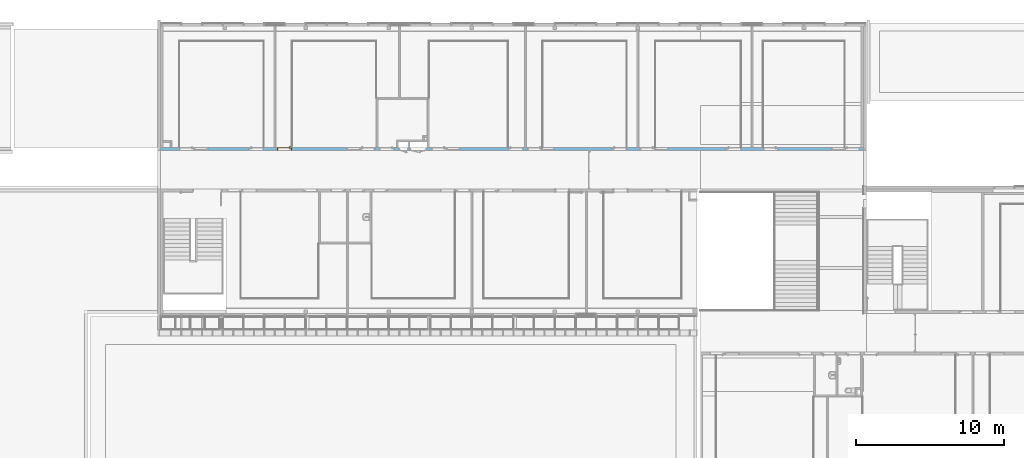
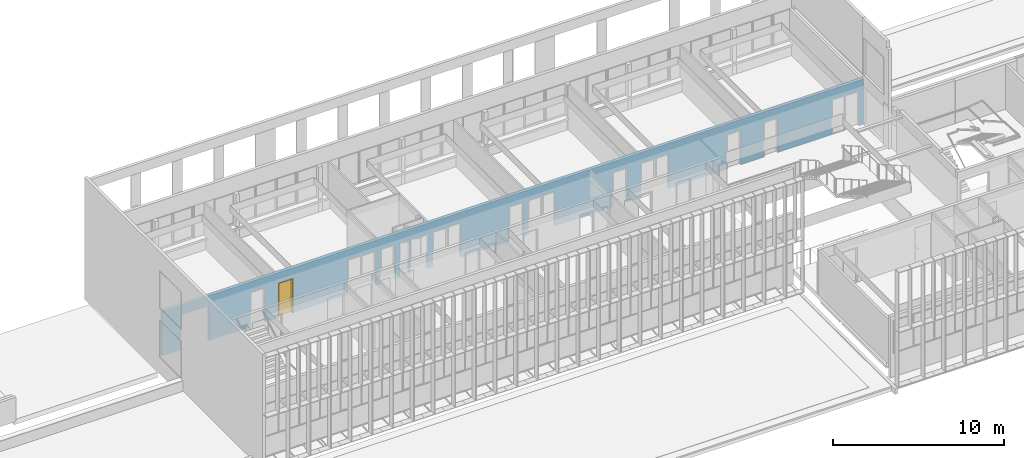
# One storey, part 50 of 106: 1 door, 21 openings, plus 1 element that does not belong to this part.
"""IFC2X3 building model written with IfcOpenShell, lengths in centimetres."""

from ifc_helpers import new_model, entity, si_unit, converted_unit, derived_unit, direction, frame, frame_2d, origin, place, context, subcontext, project, spatial, polyline, rectangle, extrude, clip, bounded_halfspace, faceted_brep, source, transform, mapped, material, material_list, layer, layer_set, layer_usage, type_object, type_shapes, element, fill, save


model = new_model("IFC2X3")

# Units and contexts
model_context = context("Model", 3, precision=0.001, world=origin(), true_north=direction((6.12303176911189e-17, 1.0)))
body_context = subcontext(model_context, "Body", "Model", "MODEL_VIEW")
ifc_project = project(units=[si_unit("LENGTHUNIT", "METRE", prefix="CENTI"), si_unit("AREAUNIT", "SQUARE_METRE"), si_unit("VOLUMEUNIT", "CUBIC_METRE"), converted_unit("PLANEANGLEUNIT", "DEGREE", entity("IfcRatioMeasure", 0.0174532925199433), si_unit("PLANEANGLEUNIT", "RADIAN"), dimensions=[0, 0, 0, 0, 0, 0, 0]), si_unit("MASSUNIT", "GRAM", prefix="KILO"), derived_unit("MASSDENSITYUNIT", [(si_unit("MASSUNIT", "GRAM", prefix="KILO"), 1), (si_unit("LENGTHUNIT", "METRE"), -3)]), si_unit("TIMEUNIT", "SECOND"), si_unit("FREQUENCYUNIT", "HERTZ"), si_unit("THERMODYNAMICTEMPERATUREUNIT", "DEGREE_CELSIUS"), derived_unit("THERMALTRANSMITTANCEUNIT", [(si_unit("MASSUNIT", "GRAM", prefix="KILO"), 1), (si_unit("THERMODYNAMICTEMPERATUREUNIT", "KELVIN"), -1), (si_unit("TIMEUNIT", "SECOND"), -3)]), derived_unit("VOLUMETRICFLOWRATEUNIT", [(si_unit("LENGTHUNIT", "METRE"), 3), (si_unit("TIMEUNIT", "SECOND"), -1)]), si_unit("ELECTRICCURRENTUNIT", "AMPERE"), si_unit("ELECTRICVOLTAGEUNIT", "VOLT"), si_unit("POWERUNIT", "WATT"), si_unit("FORCEUNIT", "NEWTON", prefix="KILO"), si_unit("ILLUMINANCEUNIT", "LUX"), si_unit("LUMINOUSFLUXUNIT", "LUMEN"), si_unit("LUMINOUSINTENSITYUNIT", "CANDELA"), derived_unit("USERDEFINED", [(si_unit("MASSUNIT", "GRAM", prefix="KILO"), -1), (si_unit("LENGTHUNIT", "METRE"), -2), (si_unit("TIMEUNIT", "SECOND"), 3), (si_unit("LUMINOUSFLUXUNIT", "LUMEN"), 1)]), derived_unit("LINEARVELOCITYUNIT", [(si_unit("LENGTHUNIT", "METRE"), 1), (si_unit("TIMEUNIT", "SECOND"), -1)]), si_unit("PRESSUREUNIT", "PASCAL"), derived_unit("USERDEFINED", [(si_unit("LENGTHUNIT", "METRE"), -2), (si_unit("MASSUNIT", "GRAM", prefix="KILO"), 1), (si_unit("TIMEUNIT", "SECOND"), -2)])], contexts=[model_context])

# Site, building, storey
site_placement = place(None, frame((-2781.94577612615, 7442.24238424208, 0.0)))
site = spatial("IfcSite", under=ifc_project, at=site_placement, Name="Default", CompositionType="ELEMENT")
building_placement = place(site_placement, origin())
building = spatial("IfcBuilding", under=site, at=building_placement, CompositionType="ELEMENT")
storey_placement = place(building_placement, frame((0.0, 0.0, 422.0)))
storey = spatial("IfcBuildingStorey", under=building, at=storey_placement, Name="Toiture - Cuisine", CompositionType="ELEMENT", Elevation=421.999999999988)

# Wall, openings, door
ifc_material_1 = material(Name="01 - Maçonnerie")
ifc_layer = layer(ifc_material_1, 20.0)
ifc_layer_set = layer_set([ifc_layer], Name="Mur de base:04 - Structure - béton - 20cm")
ifc_layer_usage = layer_usage(ifc_layer_set, "AXIS2", "NEGATIVE", 10.0)
wall_type = type_object("IfcWallType", Name="Mur de base:04 - Structure - béton - 20cm", PredefinedType="STANDARD", material=ifc_layer_set)
wall_placement = place(building_placement, frame((-8409.49987766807, -820.048500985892, 422.0)))
wall = element("IfcWallStandardCase", 1, at=wall_placement, inside=storey, type_object=wall_type, material=ifc_layer_usage, Name="Mur de base:04 - Structure - béton - 20cm", ObjectType="Mur de base:04 - Structure - béton - 20cm", context=body_context, shape_type="Clipping", body=[
    clip(extrude(rectangle(XDim=4741.49999798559, YDim=20.0, at=frame_2d((2370.74999899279, 2.04281036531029e-14), x_axis=(-1.0, 0.0))), origin(), (0.0, 0.0, 1.0), 321.0), bounded_halfspace(frame((4741.49999798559, -10.0, 321.0), z_axis=(0.0, 0.0, -1.0), x_axis=(0.0, 1.0, 0.0)), True, frame((4741.49999798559, -10.0, 321.0)), polyline([(0.0, 0.0), (0.0, 20.0), (-15.3000000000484, 20.0), (-125.300000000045, 20.0), (-127.300000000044, 20.0), (-675.800000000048, 20.0), (-677.800000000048, 20.0), (-745.800000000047, 20.0), (-755.800000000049, 20.0), (-825.800000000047, 20.0), (-827.800000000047, 20.0), (-1403.80000000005, 20.0), (-1405.80000000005, 20.0), (-1516.49999791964, 20.0), (-1526.49999791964, 20.0), (-1595.78709704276, 20.0), (-1597.78709704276, 20.0), (-2163.80000000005, 20.0), (-2165.80000000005, 20.0), (-2275.80000000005, 20.0), (-2285.80000000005, 20.0), (-2395.80000000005, 20.0), (-2397.80000000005, 20.0), (-2931.80000000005, 20.0), (-2941.80000000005, 20.0), (-3060.80000000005, 20.0), (-3070.80000000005, 20.0), (-3137.80000000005, 20.0), (-3147.80000000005, 20.0), (-3275.80000000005, 20.0), (-3285.80000000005, 20.0), (-3416.49999791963, 20.0), (-3535.80000000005, 20.0), (-3545.80000000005, 20.0), (-3611.80000000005, 20.0), (-3853.80000000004, 20.0), (-3855.80000000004, 20.0), (-3965.80000000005, 20.0), (-3975.80000000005, 20.0), (-4044.30000000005, 20.0), (-4046.30000000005, 20.0), (-4614.19999798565, 20.0), (-4616.19999798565, 20.0), (-4666.19999798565, 20.0), (-4676.19999798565, 20.0), (-4726.19999798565, 20.0), (-4741.49999798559, 20.0), (-4741.49999798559, 0.0), (-1854.0, 0.0), (-1844.0, 0.0), (-1840.0, 0.0), (0.0, 0.0)]))),
])
opening_1_placement = place(wall_placement, frame((1669.50000006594, 10.0, 0.0)))
element("IfcOpeningElement", 2, at=opening_1_placement, cuts=wall, Name="Int. Simple:PP Placard (0.55m x 2.50m):1", ObjectType="Opening", context=body_context, shape_type="SweptSolid", body=[
    extrude(rectangle(XDim=248.500000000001, YDim=61.9999999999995, at=frame_2d((124.250000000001, 30.9999999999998), x_axis=(1.0, 0.0))), frame((0.0, 0.0, 0.0), z_axis=(0.0, -1.0, 0.0), x_axis=(0.0, 0.0, 1.0)), (0.0, 0.0, 1.0), 20.0),
])
opening_2_placement = place(wall_placement, frame((1794.50000006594, 10.0, 0.0)))
element("IfcOpeningElement", 3, at=opening_2_placement, cuts=wall, Name="Int. Double:PP Placard (1.05m x 2.50m):1", ObjectType="Opening", context=body_context, shape_type="SweptSolid", body=[
    extrude(rectangle(XDim=248.500000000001, YDim=112.0, at=frame_2d((124.250000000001, 56.0000000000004), x_axis=(1.0, 0.0))), frame((0.0, 0.0, 0.0), z_axis=(0.0, -1.0, 0.0), x_axis=(0.0, 0.0, 1.0)), (0.0, 0.0, 1.0), 20.0),
])
opening_3_placement = place(wall_placement, frame((126.799999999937, -10.0, 0.0)))
element("IfcOpeningElement", 4, at=opening_3_placement, cuts=wall, Name="Int. Simple:PV (0.93m x 2.50m):1", ObjectType="Opening", context=body_context, shape_type="SweptSolid", body=[
    extrude(rectangle(XDim=248.500000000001, YDim=99.9999999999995, at=frame_2d((124.250000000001, 50.0), x_axis=(1.0, 0.0))), frame((0.0, 0.0, 0.0), z_axis=(0.0, 1.0, 0.0), x_axis=(0.0, 0.0, 1.0)), (0.0, 0.0, 1.0), 20.0),
])
opening_4_placement = place(wall_placement, frame((595.699997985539, -10.0, 0.0)))
element("IfcOpeningElement", 5, at=opening_4_placement, cuts=wall, Name="Int. Simple:PV (0.93m x 2.50m):1", ObjectType="Opening", context=body_context, shape_type="SweptSolid", body=[
    extrude(rectangle(XDim=248.500000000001, YDim=99.9999999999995, at=frame_2d((124.250000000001, 49.9999999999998), x_axis=(1.0, 0.0))), frame((0.0, 0.0, 0.0), z_axis=(0.0, 1.0, 0.0), x_axis=(0.0, 0.0, 1.0)), (0.0, 0.0, 1.0), 20.0),
])
opening_5_placement = place(wall_placement, frame((785.699997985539, -10.0, 0.0)))
opening_5 = element("IfcOpeningElement", 6, at=opening_5_placement, cuts=wall, Name="Int. Simple:PV (0.93m x 2.50m):1", ObjectType="Opening", context=body_context, shape_type="SweptSolid", body=[
    extrude(rectangle(XDim=248.500000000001, YDim=99.9999999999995, at=frame_2d((124.250000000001, 50.0), x_axis=(1.0, 0.0))), frame((0.0, 0.0, 0.0), z_axis=(0.0, 1.0, 0.0), x_axis=(0.0, 0.0, 1.0)), (0.0, 0.0, 1.0), 20.0),
])
opening_6_placement = place(wall_placement, frame((1345.69999798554, -10.0, 0.0)))
element("IfcOpeningElement", 7, at=opening_6_placement, cuts=wall, Name="Int. Simple:PV (0.93m x 2.50m):1", ObjectType="Opening", context=body_context, shape_type="SweptSolid", body=[
    extrude(rectangle(XDim=248.500000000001, YDim=99.9999999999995, at=frame_2d((124.250000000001, 49.9999999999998), x_axis=(1.0, 0.0))), frame((0.0, 0.0, 0.0), z_axis=(0.0, 1.0, 0.0), x_axis=(0.0, 0.0, 1.0)), (0.0, 0.0, 1.0), 20.0),
])
opening_7_placement = place(wall_placement, frame((1475.69999798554, -10.0, 0.0)))
element("IfcOpeningElement", 8, at=opening_7_placement, cuts=wall, Name="Int. Simple:PP simple (0.93m x 2.50m):1", ObjectType="Opening", context=body_context, shape_type="SweptSolid", body=[
    extrude(rectangle(XDim=248.500000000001, YDim=99.9999999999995, at=frame_2d((124.250000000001, 50.0), x_axis=(1.0, 0.0))), frame((0.0, 0.0, 0.0), z_axis=(0.0, 1.0, 0.0), x_axis=(0.0, 0.0, 1.0)), (0.0, 0.0, 1.0), 20.0),
])
opening_8_placement = place(wall_placement, frame((1829.69999798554, -10.0, 0.0)))
element("IfcOpeningElement", 9, at=opening_8_placement, cuts=wall, Name="Int. Simple:PV (0.93m x 2.50m):1", ObjectType="Opening", context=body_context, shape_type="SweptSolid", body=[
    extrude(rectangle(XDim=248.500000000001, YDim=99.9999999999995, at=frame_2d((124.250000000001, 50.0), x_axis=(1.0, 0.0))), frame((0.0, 0.0, 0.0), z_axis=(0.0, 1.0, 0.0), x_axis=(0.0, 0.0, 1.0)), (0.0, 0.0, 1.0), 20.0),
])
opening_9_placement = place(wall_placement, frame((2345.69999798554, -10.0, 0.0)))
element("IfcOpeningElement", 10, at=opening_9_placement, cuts=wall, Name="Int. Simple:PV (0.93m x 2.50m):1", ObjectType="Opening", context=body_context, shape_type="SweptSolid", body=[
    extrude(rectangle(XDim=248.500000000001, YDim=99.9999999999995, at=frame_2d((124.250000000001, 49.9999999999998), x_axis=(1.0, 0.0))), frame((0.0, 0.0, 0.0), z_axis=(0.0, 1.0, 0.0), x_axis=(0.0, 0.0, 1.0)), (0.0, 0.0, 1.0), 20.0),
])
opening_10_placement = place(wall_placement, frame((2475.69999798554, -10.0, 0.0)))
element("IfcOpeningElement", 11, at=opening_10_placement, cuts=wall, Name="Int. Simple:PV (0.93m x 2.50m):1", ObjectType="Opening", context=body_context, shape_type="SweptSolid", body=[
    extrude(rectangle(XDim=248.500000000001, YDim=99.9999999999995, at=frame_2d((124.250000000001, 50.0), x_axis=(1.0, 0.0))), frame((0.0, 0.0, 0.0), z_axis=(0.0, 1.0, 0.0), x_axis=(0.0, 0.0, 1.0)), (0.0, 0.0, 1.0), 20.0),
])
opening_11_placement = place(wall_placement, frame((3045.69999798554, -10.0, 0.0)))
element("IfcOpeningElement", 12, at=opening_11_placement, cuts=wall, Name="Int. Simple:PV (0.93m x 2.50m):1", ObjectType="Opening", context=body_context, shape_type="SweptSolid", body=[
    extrude(rectangle(XDim=248.500000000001, YDim=99.9999999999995, at=frame_2d((124.250000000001, 49.9999999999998), x_axis=(1.0, 0.0))), frame((0.0, 0.0, 0.0), z_axis=(0.0, 1.0, 0.0), x_axis=(0.0, 0.0, 1.0)), (0.0, 0.0, 1.0), 20.0),
])
opening_12_placement = place(wall_placement, frame((3235.69999798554, -10.0, 0.0)))
element("IfcOpeningElement", 13, at=opening_12_placement, cuts=wall, Name="Int. Simple:PV (0.93m x 2.50m):1", ObjectType="Opening", context=body_context, shape_type="SweptSolid", body=[
    extrude(rectangle(XDim=248.500000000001, YDim=99.9999999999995, at=frame_2d((124.250000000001, 50.0), x_axis=(1.0, 0.0))), frame((0.0, 0.0, 0.0), z_axis=(0.0, 1.0, 0.0), x_axis=(0.0, 0.0, 1.0)), (0.0, 0.0, 1.0), 20.0),
])
opening_13_placement = place(wall_placement, frame((3815.69999798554, -10.0, 0.0)))
element("IfcOpeningElement", 14, at=opening_13_placement, cuts=wall, Name="Int. Simple:PV (0.93m x 2.50m):1", ObjectType="Opening", context=body_context, shape_type="SweptSolid", body=[
    extrude(rectangle(XDim=248.500000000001, YDim=99.9999999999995, at=frame_2d((124.250000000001, 49.9999999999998), x_axis=(1.0, 0.0))), frame((0.0, 0.0, 0.0), z_axis=(0.0, 1.0, 0.0), x_axis=(0.0, 0.0, 1.0)), (0.0, 0.0, 1.0), 20.0),
])
opening_14_placement = place(wall_placement, frame((4065.69999798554, -10.0, 0.0)))
element("IfcOpeningElement", 15, at=opening_14_placement, cuts=wall, Name="Int. Simple:PV (0.93m x 2.50m):1", ObjectType="Opening", context=body_context, shape_type="SweptSolid", body=[
    extrude(rectangle(XDim=248.500000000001, YDim=99.9999999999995, at=frame_2d((124.250000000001, 50.0), x_axis=(1.0, 0.0))), frame((0.0, 0.0, 0.0), z_axis=(0.0, 1.0, 0.0), x_axis=(0.0, 0.0, 1.0)), (0.0, 0.0, 1.0), 20.0),
])
opening_15_placement = place(wall_placement, frame((4616.19999798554, -10.0, 0.0)))
element("IfcOpeningElement", 16, at=opening_15_placement, cuts=wall, Name="Int. Simple:PV (0.93m x 2.50m):1", ObjectType="Opening", context=body_context, shape_type="SweptSolid", body=[
    extrude(rectangle(XDim=248.500000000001, YDim=99.9999999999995, at=frame_2d((124.250000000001, 49.9999999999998), x_axis=(1.0, 0.0))), frame((0.0, 0.0, 0.0), z_axis=(0.0, 1.0, 0.0), x_axis=(0.0, 0.0, 1.0)), (0.0, 0.0, 1.0), 20.0),
])
opening_16_placement = place(wall_placement, frame((1255.69999798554, -10.0, 0.0)))
element("IfcOpeningElement", 17, at=opening_16_placement, cuts=wall, Name="châssis intérieur vitré:châssis intérieur vitré (h=270) R+1:1", ObjectType="Opening", context=body_context, shape_type="SweptSolid", body=[
    extrude(rectangle(XDim=250.0, YDim=89.9999999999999, at=frame_2d((125.0, 45.0), x_axis=(1.0, 0.0))), frame((0.0, 0.0, 0.0), z_axis=(0.0, 1.0, 0.0), x_axis=(0.0, 0.0, 1.0)), (0.0, 0.0, 1.0), 20.0),
])
opening_17_placement = place(wall_placement, frame((1929.69999798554, -10.0, 0.0)))
element("IfcOpeningElement", 18, at=opening_17_placement, cuts=wall, Name="châssis intérieur vitré:châssis intérieur vitré (h=270) R+1:1", ObjectType="Opening", context=body_context, shape_type="SweptSolid", body=[
    extrude(rectangle(XDim=250.0, YDim=89.9999999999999, at=frame_2d((125.0, 45.0), x_axis=(1.0, 0.0))), frame((0.0, 0.0, 0.0), z_axis=(0.0, 1.0, 0.0), x_axis=(0.0, 0.0, 1.0)), (0.0, 0.0, 1.0), 20.0),
])
opening_18_placement = place(wall_placement, frame((4526.19999798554, -10.0, 0.0)))
element("IfcOpeningElement", 19, at=opening_18_placement, cuts=wall, Name="châssis intérieur vitré:châssis intérieur vitré (h=270) R+1:1", ObjectType="Opening", context=body_context, shape_type="SweptSolid", body=[
    extrude(rectangle(XDim=250.0, YDim=89.9999999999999, at=frame_2d((125.0, 45.0000000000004), x_axis=(1.0, 0.0))), frame((0.0, 0.0, 0.0), z_axis=(0.0, 1.0, 0.0), x_axis=(0.0, 0.0, 1.0)), (0.0, 0.0, 1.0), 20.0),
])
opening_19_placement = place(wall_placement, frame((3335.69999798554, -10.0, 0.0)))
element("IfcOpeningElement", 20, at=opening_19_placement, cuts=wall, Name="châssis intérieur vitré:châssis intérieur vitré (h=270) R+1:1", ObjectType="Opening", context=body_context, shape_type="SweptSolid", body=[
    extrude(rectangle(XDim=250.0, YDim=89.9999999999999, at=frame_2d((125.0, 45.0000000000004), x_axis=(1.0, 0.0))), frame((0.0, 0.0, 0.0), z_axis=(0.0, 1.0, 0.0), x_axis=(0.0, 0.0, 1.0)), (0.0, 0.0, 1.0), 20.0),
])
opening_20_placement = place(wall_placement, frame((2565.69999798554, -10.0, 0.0)))
element("IfcOpeningElement", 21, at=opening_20_placement, cuts=wall, Name="châssis intérieur vitré:châssis intérieur vitré (h=270) R+1:1", ObjectType="Opening", context=body_context, shape_type="SweptSolid", body=[
    extrude(rectangle(XDim=250.0, YDim=89.9999999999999, at=frame_2d((125.0, 45.0000000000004), x_axis=(1.0, 0.0))), frame((0.0, 0.0, 0.0), z_axis=(0.0, 1.0, 0.0), x_axis=(0.0, 0.0, 1.0)), (0.0, 0.0, 1.0), 20.0),
])
opening_21_placement = place(wall_placement, frame((226.799999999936, -10.0, 0.0)))
element("IfcOpeningElement", 22, at=opening_21_placement, cuts=wall, Name="châssis intérieur vitré:châssis intérieur vitré (h=270) R+1:1", ObjectType="Opening", context=body_context, shape_type="SweptSolid", body=[
    extrude(rectangle(XDim=250.0, YDim=91.4999999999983, at=frame_2d((125.0, 45.7499999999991), x_axis=(1.0, 0.0))), frame((0.0, 0.0, 0.0), z_axis=(0.0, 1.0, 0.0), x_axis=(0.0, 0.0, 1.0)), (0.0, 0.0, 1.0), 20.0),
])
ifc_material_2 = material(Name="Finition Peinture - Blanc satiné")
ifc_material_3 = material(Name="Bois - Panneau de porte")
ifc_material_4 = material(Name="Bois - Cadre de porte")
ifc_material_list_1 = material_list([ifc_material_2, ifc_material_3, ifc_material_4])
ifc_material_list_2 = material_list([ifc_material_2, ifc_material_3, ifc_material_4])
door_style = type_object("IfcDoorStyle", Name="PV (0.93m x 2.50m)", ConstructionType="NOTDEFINED", OperationType="SINGLE_SWING_LEFT", ParameterTakesPrecedence=False, Sizeable=False, material=ifc_material_list_2)
shared_shape = source(origin(), body_context, "Body", "Brep", [
    faceted_brep([(10.5352761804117, -0.500000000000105, 86.6003983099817), (11.5000000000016, -0.500000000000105, 87.0), (11.5000000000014, -0.500000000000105, 108.0), (10.5352761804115, -0.500000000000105, 108.399601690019), (9.50000000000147, -0.500000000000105, 108.535898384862), (8.46472381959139, -0.500000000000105, 108.399601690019), (7.50000000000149, -0.500000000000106, 108.0), (7.50000000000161, -0.500000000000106, 87.0), (8.46472381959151, -0.500000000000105, 86.6003983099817), (9.50000000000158, -0.500000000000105, 86.464101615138), (10.5352761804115, 0.0, 108.399601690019), (11.5000000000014, 0.0, 108.0), (11.5000000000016, 0.0, 87.0), (10.5352761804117, 0.0, 86.6003983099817), (9.50000000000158, 0.0, 86.464101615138), (8.46472381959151, 0.0, 86.6003983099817), (7.50000000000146, 0.0, 87.0), (7.50000000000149, 0.0, 108.0), (8.46472381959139, 0.0, 108.399601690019), (9.50000000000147, 0.0, 108.535898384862)], [[[0, 1, 2, 3, 4, 5, 6, 7, 8, 9]], [[10, 11, 12, 13, 14, 15, 16, 17, 18, 19]], [[16, 15, 8, 7]], [[8, 15, 14, 9]], [[14, 13, 0, 9]], [[13, 12, 1, 0]], [[2, 1, 12, 11]], [[11, 10, 3, 2]], [[3, 10, 19, 4]], [[19, 18, 5, 4]], [[18, 17, 6, 5]], [[7, 6, 17, 16]]]),
    faceted_brep([(10.5352761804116, 4.0, 86.6003983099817), (11.5000000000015, 4.0, 87.0), (11.5000000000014, 4.0, 108.0), (10.5352761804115, 4.0, 108.399601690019), (9.50000000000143, 4.0, 108.535898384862), (8.46472381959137, 4.0, 108.399601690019), (7.50000000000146, 4.0, 108.0), (7.50000000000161, 4.0, 87.0), (8.46472381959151, 4.0, 86.6003983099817), (9.50000000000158, 4.0, 86.464101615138), (10.5352761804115, 4.49999999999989, 108.399601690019), (11.5000000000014, 4.49999999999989, 108.0), (11.5000000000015, 4.49999999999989, 87.0), (10.5352761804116, 4.49999999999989, 86.6003983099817), (9.50000000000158, 4.49999999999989, 86.464101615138), (8.46472381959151, 4.49999999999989, 86.6003983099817), (7.50000000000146, 4.49999999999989, 87.0), (7.50000000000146, 4.49999999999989, 108.0), (8.46472381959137, 4.49999999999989, 108.399601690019), (9.50000000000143, 4.49999999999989, 108.535898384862)], [[[0, 1, 2, 3, 4, 5, 6, 7, 8, 9]], [[10, 11, 12, 13, 14, 15, 16, 17, 18, 19]], [[11, 10, 3, 2]], [[3, 10, 19, 4]], [[19, 18, 5, 4]], [[18, 17, 6, 5]], [[7, 6, 17, 16]], [[16, 15, 8, 7]], [[8, 15, 14, 9]], [[14, 13, 0, 9]], [[13, 12, 1, 0]], [[2, 1, 12, 11]]]),
    faceted_brep([(9.29747013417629, -0.500000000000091, 100.778044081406), (9.70252986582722, -0.500000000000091, 100.778044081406), (10.1000000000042, -0.500000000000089, 100.699999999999), (10.1000000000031, -0.500000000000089, 99.3000000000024), (9.7025298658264, -0.500000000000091, 99.2219559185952), (9.29747013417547, -0.500000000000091, 99.221955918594), (8.8999999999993, -0.500000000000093, 99.2999999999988), (8.89999999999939, -0.500000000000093, 100.7), (8.89999999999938, -3.26509507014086, 100.7), (9.29747013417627, -3.10045754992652, 100.778044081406), (10.9023585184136, -4.70534593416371, 100.778044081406), (11.0701397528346, -4.30028620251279, 100.778044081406), (9.7025298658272, -2.93267631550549, 100.778044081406), (10.1000000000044, -2.76803879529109, 100.7), (10.1000000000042, -2.76803879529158, 99.3000000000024), (9.7025298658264, -2.93267631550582, 99.2219559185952), (11.0701397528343, -4.30028620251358, 99.2219559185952), (10.9023585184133, -4.70534593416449, 99.221955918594), (9.29747013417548, -3.10045754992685, 99.221955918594), (8.89999999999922, -3.26509507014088, 99.2999999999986), (10.7377209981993, -5.10281606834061, 100.7), (11.2347772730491, -3.90281606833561, 100.7), (11.2347772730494, -3.90281606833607, 99.3000000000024), (10.7377209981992, -5.10281606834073, 99.2999999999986), (19.5018640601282, -5.1028160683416, 99.2999999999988), (19.5018640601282, -4.70534593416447, 99.221955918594), (19.5018640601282, -4.30028620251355, 99.2219559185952), (19.5018640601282, -3.90281606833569, 99.3000000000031), (19.5018640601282, -3.90281606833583, 100.7), (19.5018640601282, -4.30028620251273, 100.778044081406), (19.5018640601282, -4.70534593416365, 100.778044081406), (19.5018640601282, -5.10281606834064, 100.699999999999), (14.7307697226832, -5.10281606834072, 100.7), (15.2860019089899, -4.5028160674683, 100.78786867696), (15.3683206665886, -3.9028160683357, 100.7), (15.3683206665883, -3.90281606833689, 99.3000000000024), (15.2860018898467, -4.50281607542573, 99.2121313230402), (14.7307700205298, -5.10281606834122, 99.2999999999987)], [[[0, 1, 2, 3, 4, 5, 6, 7]], [[8, 9, 0, 7]], [[9, 10, 11, 12, 1, 0]], [[12, 13, 2, 1]], [[3, 2, 13, 14]], [[14, 15, 4, 3]], [[15, 16, 17, 18, 5, 4]], [[18, 19, 6, 5]], [[7, 6, 19, 8]], [[20, 10, 9, 8]], [[11, 21, 13, 12]], [[14, 13, 21, 22]], [[22, 16, 15, 14]], [[17, 23, 19, 18]], [[8, 19, 23, 20]], [[24, 25, 26, 27, 28, 29, 30, 31]], [[32, 30, 33]], [[31, 30, 32]], [[10, 20, 32]], [[33, 34, 11]], [[21, 11, 34]], [[34, 29, 28]], [[30, 29, 33]], [[29, 34, 33]], [[10, 32, 33]], [[10, 33, 11]], [[22, 21, 34, 28, 27, 35]], [[35, 26, 36]], [[37, 36, 25]], [[22, 35, 16]], [[35, 27, 26]], [[24, 37, 25]], [[23, 17, 37]], [[37, 17, 36]], [[17, 16, 36]], [[16, 35, 36]], [[25, 36, 26]], [[20, 23, 37, 24, 31, 32]]]),
    faceted_brep([(9.29747013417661, 4.49999999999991, 100.778044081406), (8.89999999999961, 4.4999999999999, 100.7), (8.89999999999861, 4.4999999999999, 99.2999999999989), (9.29747013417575, 4.49999999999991, 99.221955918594), (9.70252986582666, 4.49999999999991, 99.2219559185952), (10.1000000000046, 4.49999999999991, 99.3000000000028), (10.1000000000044, 4.49999999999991, 100.7), (9.70252986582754, 4.49999999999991, 100.778044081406), (10.1000000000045, 6.7485204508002, 99.3000000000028), (10.1000000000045, 6.74852045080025, 100.7), (9.70252986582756, 6.91315797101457, 100.778044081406), (11.083890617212, 8.29451872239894, 100.778044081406), (10.916109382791, 8.69957845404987, 100.778044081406), (9.29747013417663, 7.0809392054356, 100.778044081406), (8.89999999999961, 7.24557672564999, 100.7), (8.89999999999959, 7.2455767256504, 99.2999999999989), (9.29747013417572, 7.08093920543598, 99.221955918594), (10.9161093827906, 8.69957845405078, 99.221955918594), (11.0838906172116, 8.29451872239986, 99.2219559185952), (9.70252986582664, 6.91315797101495, 99.2219559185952), (11.2485281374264, 7.89704858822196, 99.3000000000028), (11.2485281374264, 7.89704858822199, 100.7), (10.7514718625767, 9.09704858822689, 100.7), (10.7514718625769, 9.0970485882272, 99.2999999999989), (19.5045783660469, 7.89704858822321, 99.3000000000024), (19.5045783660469, 8.29451872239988, 99.2219559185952), (19.5045783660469, 8.6995784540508, 99.221955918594), (19.5045783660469, 9.09704858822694, 99.2999999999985), (19.5045783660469, 9.09704858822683, 100.7), (19.5045783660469, 8.69957845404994, 100.778044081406), (19.5045783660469, 8.29451872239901, 100.778044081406), (19.5045783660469, 7.89704858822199, 100.7), (15.3765520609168, 7.89704858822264, 99.3000000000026), (15.3765532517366, 7.89704858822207, 100.7), (15.294234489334, 8.49704858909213, 100.78786867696), (14.7445205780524, 9.09704858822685, 100.7), (14.7445204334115, 9.09704858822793, 99.2999999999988), (15.2942345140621, 8.49704858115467, 99.2121313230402)], [[[0, 1, 2, 3, 4, 5, 6, 7]], [[6, 5, 8, 9]], [[9, 10, 7, 6]], [[10, 11, 12, 13, 0, 7]], [[13, 14, 1, 0]], [[2, 1, 14, 15]], [[15, 16, 3, 2]], [[16, 17, 18, 19, 4, 3]], [[19, 8, 5, 4]], [[9, 8, 20, 21]], [[21, 11, 10, 9]], [[12, 22, 14, 13]], [[15, 14, 22, 23]], [[23, 17, 16, 15]], [[18, 20, 8, 19]], [[24, 25, 26, 27, 28, 29, 30, 31]], [[21, 20, 32, 24, 31, 33]], [[33, 30, 34]], [[35, 34, 29]], [[21, 33, 11]], [[33, 31, 30]], [[28, 35, 29]], [[22, 12, 35]], [[35, 12, 34]], [[12, 11, 34]], [[11, 33, 34]], [[29, 34, 30]], [[22, 35, 28, 27, 36, 23]], [[36, 26, 37]], [[27, 26, 36]], [[17, 23, 36]], [[37, 32, 18]], [[20, 18, 32]], [[32, 25, 24]], [[26, 25, 37]], [[25, 32, 37]], [[17, 36, 37]], [[17, 37, 18]]]),
    faceted_brep([(3.50000000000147, 4.0, 245.0), (96.5000000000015, 4.0, 245.0), (96.5000000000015, 4.0, 0.0), (3.50000000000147, 4.0, 0.0), (3.50000000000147, 0.0, 245.0), (3.50000000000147, 0.0, 0.0), (96.5000000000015, 0.0, 0.0), (96.5000000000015, 0.0, 245.0)], [[[0, 1, 2, 3]], [[4, 5, 6, 7]], [[1, 0, 4, 7]], [[2, 1, 7, 6]], [[3, 2, 6, 5]], [[0, 3, 5, 4]]]),
    faceted_brep([(0.0, 20.0, 0.0), (-1.50000000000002, 20.0, 0.0), (-1.50000000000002, 20.5000000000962, 0.0), (5.0, 20.5000000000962, 0.0), (5.0, 4.0, 0.0), (3.50000000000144, 4.0, 0.0), (3.50000000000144, -0.500000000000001, 0.0), (-1.50000000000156, -0.500000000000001, 0.0), (-1.50000000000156, 0.0, 0.0), (0.0, 0.0, 0.0), (0.0, 20.0, 248.500000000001), (100.0, 20.0, 248.500000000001), (100.0, 20.0, 0.0), (101.5, 20.0, 0.0), (101.5, 20.0, 250.0), (-1.50000000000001, 20.0, 250.0), (-1.50000000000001, 20.5000000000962, 250.0), (101.5, 20.5000000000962, 250.0), (101.5, 20.5000000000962, 0.0), (95.0, 20.5000000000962, 0.0), (95.0, 20.5000000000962, 243.5), (5.0, 20.5000000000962, 243.5), (5.0, 4.0, 243.5), (95.0, 4.0, 243.5), (95.0, 4.0, 0.0), (96.499999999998, 4.0, 0.0), (96.499999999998, 4.0, 245.0), (3.50000000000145, 4.0, 245.0), (3.50000000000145, -0.500000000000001, 245.0), (96.499999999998, -0.500000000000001, 245.0), (96.499999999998, -0.500000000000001, 0.0), (101.500000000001, -0.500000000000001, 0.0), (101.500000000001, -0.500000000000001, 250.0), (-1.50000000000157, -0.500000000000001, 250.0), (-1.50000000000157, 0.0, 250.0), (101.500000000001, 0.0, 250.0), (101.500000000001, 0.0, 0.0), (100.0, 0.0, 0.0), (100.0, 0.0, 248.500000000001), (0.0, 0.0, 248.500000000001)], [[[0, 1, 2, 3, 4, 5, 6, 7, 8, 9]], [[1, 0, 10, 11, 12, 13, 14, 15]], [[2, 1, 15, 16]], [[3, 2, 16, 17, 18, 19, 20, 21]], [[3, 21, 22, 4]], [[5, 4, 22, 23, 24, 25, 26, 27]], [[5, 27, 28, 6]], [[7, 6, 28, 29, 30, 31, 32, 33]], [[8, 7, 33, 34]], [[9, 8, 34, 35, 36, 37, 38, 39]], [[0, 9, 39, 10]], [[11, 38, 37, 12]], [[12, 37, 36, 31, 30, 25, 24, 19, 18, 13]], [[17, 14, 13, 18]], [[23, 20, 19, 24]], [[29, 26, 25, 30]], [[35, 32, 31, 36]], [[16, 15, 14, 17]], [[22, 21, 20, 23]], [[28, 27, 26, 29]], [[34, 33, 32, 35]], [[10, 39, 38, 11]]]),
])
type_shapes(door_style, [shared_shape])
door_placement = place(opening_5_placement, frame((100.0, 20.0, 0.0), z_axis=(0.0, 0.0, 1.0), x_axis=(-1.0, 0.0, 0.0)))
door = element("IfcDoor", 23, at=door_placement, inside=storey, type_object=door_style, material=ifc_material_list_1, Name="Int. Simple:PV (0.93m x 2.50m)", ObjectType="Int. Simple:PV (0.93m x 2.50m)", OverallHeight=248.500000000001, OverallWidth=99.9999999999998, context=body_context, shape_type="MappedRepresentation", body=[
    mapped(shared_shape, transform((0.0, 0.0, 0.0), scale=1.0)),
])
fill(opening_5, door)

save(model, "model.ifc")
